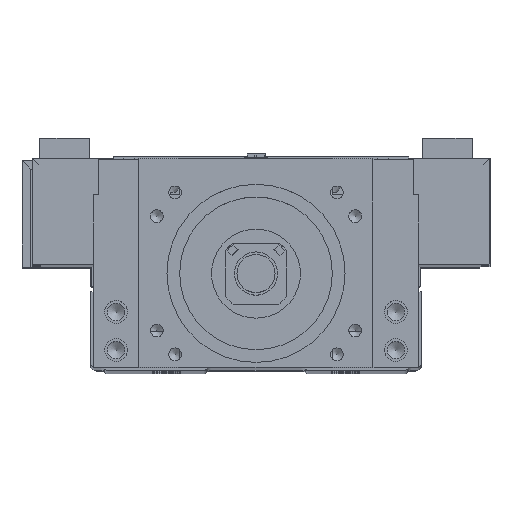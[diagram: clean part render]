
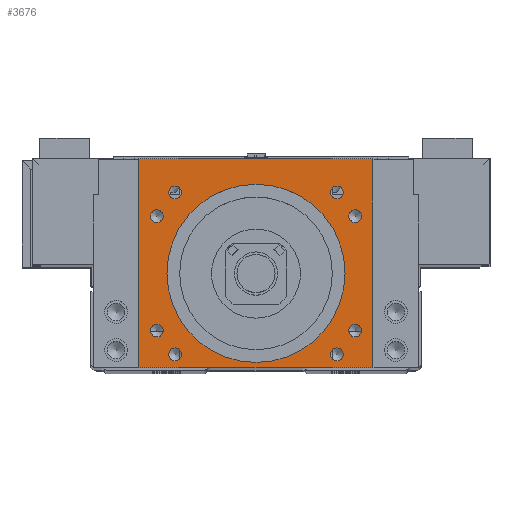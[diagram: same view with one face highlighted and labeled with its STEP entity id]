
A CAD part, top view. The second image highlights one B-rep face of the part: STEP entity #3676.
In plain terms, the highlighted planar face has unit normal (0, 0, 1).
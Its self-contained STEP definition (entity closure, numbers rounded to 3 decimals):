
#1782=FACE_BOUND('',#8856,.T.);
#1783=FACE_BOUND('',#8857,.T.);
#1784=FACE_BOUND('',#8858,.T.);
#1785=FACE_BOUND('',#8859,.T.);
#1786=FACE_BOUND('',#8860,.T.);
#1787=FACE_BOUND('',#8861,.T.);
#1788=FACE_BOUND('',#8862,.T.);
#1789=FACE_BOUND('',#8863,.T.);
#1790=FACE_BOUND('',#8864,.T.);
#1791=FACE_BOUND('',#8865,.T.);
#2608=CIRCLE('',#34670,35.015);
#2609=CIRCLE('',#34672,2.5);
#2610=CIRCLE('',#34673,2.5);
#2611=CIRCLE('',#34674,2.5);
#2612=CIRCLE('',#34675,2.5);
#2613=CIRCLE('',#34676,2.5);
#2614=CIRCLE('',#34677,2.5);
#2615=CIRCLE('',#34678,2.5);
#2616=CIRCLE('',#34679,2.5);
#3676=ADVANCED_FACE('',(#1782,#1783,#1784,#1785,#1786,#1787,#1788,#1789,
#1790,#1791),#5524,.T.);
#5524=PLANE('',#34680);
#8856=EDGE_LOOP('',(#13596,#13597,#13598,#13599));
#8857=EDGE_LOOP('',(#13600));
#8858=EDGE_LOOP('',(#13601));
#8859=EDGE_LOOP('',(#13602));
#8860=EDGE_LOOP('',(#13603));
#8861=EDGE_LOOP('',(#13604));
#8862=EDGE_LOOP('',(#13605));
#8863=EDGE_LOOP('',(#13606));
#8864=EDGE_LOOP('',(#13607));
#8865=EDGE_LOOP('',(#13608));
#13596=ORIENTED_EDGE('',*,*,#23684,.T.);
#13597=ORIENTED_EDGE('',*,*,#23081,.T.);
#13598=ORIENTED_EDGE('',*,*,#23679,.T.);
#13599=ORIENTED_EDGE('',*,*,#23689,.T.);
#13600=ORIENTED_EDGE('',*,*,#23697,.F.);
#13601=ORIENTED_EDGE('',*,*,#23698,.T.);
#13602=ORIENTED_EDGE('',*,*,#23699,.T.);
#13603=ORIENTED_EDGE('',*,*,#23700,.F.);
#13604=ORIENTED_EDGE('',*,*,#23696,.F.);
#13605=ORIENTED_EDGE('',*,*,#23701,.T.);
#13606=ORIENTED_EDGE('',*,*,#23702,.T.);
#13607=ORIENTED_EDGE('',*,*,#23703,.T.);
#13608=ORIENTED_EDGE('',*,*,#23704,.T.);
#19800=VERTEX_POINT('',#47065);
#19801=VERTEX_POINT('',#47067);
#20233=VERTEX_POINT('',#48484);
#20235=VERTEX_POINT('',#48495);
#20241=VERTEX_POINT('',#48519);
#20242=VERTEX_POINT('',#48522);
#20243=VERTEX_POINT('',#48524);
#20244=VERTEX_POINT('',#48526);
#20245=VERTEX_POINT('',#48528);
#20246=VERTEX_POINT('',#48530);
#20247=VERTEX_POINT('',#48532);
#20248=VERTEX_POINT('',#48534);
#20249=VERTEX_POINT('',#48536);
#23081=EDGE_CURVE('',#19801,#19800,#27453,.T.);
#23679=EDGE_CURVE('',#19800,#20233,#27839,.T.);
#23684=EDGE_CURVE('',#20235,#19801,#27844,.T.);
#23689=EDGE_CURVE('',#20233,#20235,#27849,.T.);
#23696=EDGE_CURVE('',#20241,#20241,#2608,.T.);
#23697=EDGE_CURVE('',#20242,#20242,#2609,.T.);
#23698=EDGE_CURVE('',#20243,#20243,#2610,.T.);
#23699=EDGE_CURVE('',#20244,#20244,#2611,.T.);
#23700=EDGE_CURVE('',#20245,#20245,#2612,.T.);
#23701=EDGE_CURVE('',#20246,#20246,#2613,.T.);
#23702=EDGE_CURVE('',#20247,#20247,#2614,.T.);
#23703=EDGE_CURVE('',#20248,#20248,#2615,.T.);
#23704=EDGE_CURVE('',#20249,#20249,#2616,.T.);
#27453=LINE('',#47066,#31103);
#27839=LINE('',#48486,#31489);
#27844=LINE('',#48494,#31494);
#27849=LINE('',#48503,#31499);
#31103=VECTOR('',#38189,1.);
#31489=VECTOR('',#39403,1.);
#31494=VECTOR('',#39414,1.);
#31499=VECTOR('',#39421,1.);
#34670=AXIS2_PLACEMENT_3D('',#48518,#39440,#39441);
#34672=AXIS2_PLACEMENT_3D('',#48521,#39444,#39445);
#34673=AXIS2_PLACEMENT_3D('',#48523,#39446,#39447);
#34674=AXIS2_PLACEMENT_3D('',#48525,#39448,#39449);
#34675=AXIS2_PLACEMENT_3D('',#48527,#39450,#39451);
#34676=AXIS2_PLACEMENT_3D('',#48529,#39452,#39453);
#34677=AXIS2_PLACEMENT_3D('',#48531,#39454,#39455);
#34678=AXIS2_PLACEMENT_3D('',#48533,#39456,#39457);
#34679=AXIS2_PLACEMENT_3D('',#48535,#39458,#39459);
#34680=AXIS2_PLACEMENT_3D('',#48537,#39460,#39461);
#38189=DIRECTION('',(-1.,0.,0.));
#39403=DIRECTION('',(0.,-1.,0.));
#39414=DIRECTION('',(0.,1.,0.));
#39421=DIRECTION('',(1.,0.,0.));
#39440=DIRECTION('',(0.,0.,1.));
#39441=DIRECTION('',(1.,0.,0.));
#39444=DIRECTION('',(0.,0.,1.));
#39445=DIRECTION('',(-1.,0.,0.));
#39446=DIRECTION('',(0.,0.,-1.));
#39447=DIRECTION('',(1.,0.,0.));
#39448=DIRECTION('',(0.,0.,-1.));
#39449=DIRECTION('',(1.,0.,0.));
#39450=DIRECTION('',(0.,0.,1.));
#39451=DIRECTION('',(-1.,0.,0.));
#39452=DIRECTION('',(0.,0.,-1.));
#39453=DIRECTION('',(1.,0.,0.));
#39454=DIRECTION('',(0.,0.,-1.));
#39455=DIRECTION('',(1.,0.,0.));
#39456=DIRECTION('',(0.,0.,-1.));
#39457=DIRECTION('',(1.,0.,0.));
#39458=DIRECTION('',(0.,0.,-1.));
#39459=DIRECTION('',(1.,0.,0.));
#39460=DIRECTION('',(0.,0.,1.));
#39461=DIRECTION('',(1.,0.,0.));
#47065=CARTESIAN_POINT('',(-46.,83.,50.));
#47066=CARTESIAN_POINT('',(0.,83.,50.));
#47067=CARTESIAN_POINT('',(46.,83.,50.));
#48484=CARTESIAN_POINT('',(-46.,1.,50.));
#48486=CARTESIAN_POINT('',(-46.,38.,50.));
#48494=CARTESIAN_POINT('',(46.,38.,50.));
#48495=CARTESIAN_POINT('',(46.,1.,50.));
#48503=CARTESIAN_POINT('',(0.,1.,50.));
#48518=CARTESIAN_POINT('',(0.,38.,50.));
#48519=CARTESIAN_POINT('',(35.015,38.,50.));
#48521=CARTESIAN_POINT('',(-38.971,15.5,50.));
#48522=CARTESIAN_POINT('',(-41.471,15.5,50.));
#48523=CARTESIAN_POINT('',(38.971,60.5,50.));
#48524=CARTESIAN_POINT('',(41.471,60.5,50.));
#48525=CARTESIAN_POINT('',(38.971,15.5,50.));
#48526=CARTESIAN_POINT('',(41.471,15.5,50.));
#48527=CARTESIAN_POINT('',(-38.971,60.5,50.));
#48528=CARTESIAN_POINT('',(-41.471,60.5,50.));
#48529=CARTESIAN_POINT('',(-31.82,69.82,50.));
#48530=CARTESIAN_POINT('',(-29.32,69.82,50.));
#48531=CARTESIAN_POINT('',(-31.82,6.18,50.));
#48532=CARTESIAN_POINT('',(-29.32,6.18,50.));
#48533=CARTESIAN_POINT('',(31.82,6.18,50.));
#48534=CARTESIAN_POINT('',(34.32,6.18,50.));
#48535=CARTESIAN_POINT('',(31.82,69.82,50.));
#48536=CARTESIAN_POINT('',(34.32,69.82,50.));
#48537=CARTESIAN_POINT('',(0.,38.,50.));
